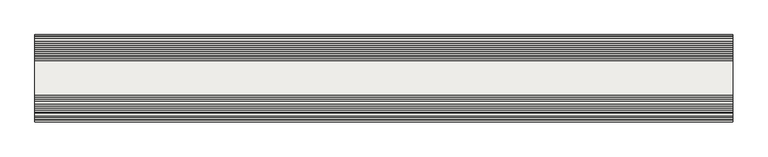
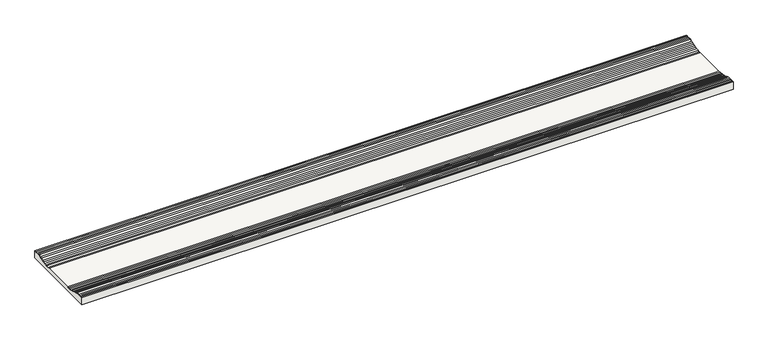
"""IFC4 building model written with IfcOpenShell, lengths in millimetres: slab geometry, ROSA GRES_204 : Pieza 204_Indugres_Indubeige_Tecno."""

from ifc_helpers import new_model, si_unit, point, frame, frame_2d, origin, place, context, project, spatial, polyline, circle_curve, trimmed, segment, composite_curve, outline, extrude, source, transform, mapped, element, save


def slab_7b5f9839(model_context):
    return source(origin(), model_context, "Body", "SweptSolid", [
        extrude(outline(composite_curve([segment(polyline([(0.0, 0.0), (-250.0, 0.0), (-250.0, 22.8672484), (-246.5165615, 22.8672484)]), True, "CONTINUOUS"), segment(trimmed(circle_curve(frame_2d((-246.5165615, 24.9459193)), 2.078671), [point((-246.5165615, 22.8672484))], [point((-244.6066559, 24.1254722))], True, "CARTESIAN"), True, "CONTINUOUS"), segment(trimmed(circle_curve(frame_2d((-241.5227559, 27.2443435)), 4.3860914), [point((-244.6066559, 24.1254722))], [point((-238.5231465, 24.0443215))], True, "CARTESIAN"), True, "CONTINUOUS"), segment(trimmed(circle_curve(frame_2d((-235.5165615, 27.2619892)), 4.4037415), [point((-238.5231465, 24.0443215))], [point((-232.5161808, 24.0385354))], True, "CARTESIAN"), True, "CONTINUOUS"), segment(trimmed(circle_curve(frame_2d((-229.5227559, 27.2443435)), 4.3860914), [point((-232.5161808, 24.0385354))], [point((-226.4518445, 24.1126825))], True, "CARTESIAN"), True, "CONTINUOUS"), segment(trimmed(circle_curve(frame_2d((-222.4126485, 25.8222711)), 4.3860914), [point((-226.4518445, 24.1126825))], [point((-220.9070916, 21.702672))], True, "CARTESIAN"), True, "CONTINUOUS"), segment(trimmed(circle_curve(frame_2d((-217.0089888, 23.7132919)), 4.3860914), [point((-220.9070916, 21.702672))], [point((-215.3259087, 19.6629784))], True, "CARTESIAN"), True, "CONTINUOUS"), segment(trimmed(circle_curve(frame_2d((-211.4655295, 21.7451095)), 4.3860914), [point((-215.3259087, 19.6629784))], [point((-209.593873, 17.7784107))], True, "CARTESIAN"), True, "CONTINUOUS"), segment(trimmed(circle_curve(frame_2d((-205.8934032, 20.1330489)), 4.3860914), [point((-209.593873, 17.7784107))], [point((-203.853023, 16.2504407))], True, "CARTESIAN"), True, "CONTINUOUS"), segment(trimmed(circle_curve(frame_2d((-200.2085503, 18.690854)), 4.3860914), [point((-203.853023, 16.2504407))], [point((-197.9613895, 14.9241491))], True, "CARTESIAN"), True, "CONTINUOUS"), segment(trimmed(circle_curve(frame_2d((-194.4503067, 17.5528551)), 4.3860914), [point((-197.9613895, 14.9241491))], [point((-192.1240285, 13.8344915))], True, "CARTESIAN"), True, "CONTINUOUS"), segment(trimmed(circle_curve(frame_2d((-188.6900903, 16.563203)), 4.3860914), [point((-192.1240285, 13.8344915))], [point((-186.1425933, 12.9927609))], True, "CARTESIAN"), True, "CONTINUOUS"), segment(trimmed(circle_curve(frame_2d((-182.8453461, 15.8851576)), 4.3860914), [point((-186.1425933, 12.9927609))], [point((-180.2419212, 12.3552884))], True, "CARTESIAN"), True, "CONTINUOUS"), segment(trimmed(circle_curve(frame_2d((-177.0588098, 15.372837)), 4.3860914), [point((-180.2419212, 12.3552884))], [point((-174.3413989, 11.9299493))], True, "CARTESIAN"), True, "CONTINUOUS"), segment(polyline([(-174.3413989, 11.9299493), (-75.6586011, 11.9299493)]), True, "CONTINUOUS"), segment(trimmed(circle_curve(frame_2d((-72.9411902, 15.372837)), 4.3860914), [point((-75.6586011, 11.9299493))], [point((-69.7580788, 12.3552884))], True, "CARTESIAN"), True, "CONTINUOUS"), segment(trimmed(circle_curve(frame_2d((-67.1546539, 15.8851576)), 4.3860914), [point((-69.7580788, 12.3552884))], [point((-63.8574067, 12.9927609))], True, "CARTESIAN"), True, "CONTINUOUS"), segment(trimmed(circle_curve(frame_2d((-61.3099097, 16.563203)), 4.3860914), [point((-63.8574067, 12.9927609))], [point((-57.8759715, 13.8344915))], True, "CARTESIAN"), True, "CONTINUOUS"), segment(trimmed(circle_curve(frame_2d((-55.5496933, 17.5528551)), 4.3860914), [point((-57.8759715, 13.8344915))], [point((-52.0386105, 14.9241491))], True, "CARTESIAN"), True, "CONTINUOUS"), segment(trimmed(circle_curve(frame_2d((-49.7914497, 18.690854)), 4.3860914), [point((-52.0386105, 14.9241491))], [point((-46.146977, 16.2504407))], True, "CARTESIAN"), True, "CONTINUOUS"), segment(trimmed(circle_curve(frame_2d((-44.1065968, 20.1330489)), 4.3860914), [point((-46.146977, 16.2504407))], [point((-40.406127, 17.7784107))], True, "CARTESIAN"), True, "CONTINUOUS"), segment(trimmed(circle_curve(frame_2d((-38.5344705, 21.7451095)), 4.3860914), [point((-40.406127, 17.7784107))], [point((-34.6740913, 19.6629784))], True, "CARTESIAN"), True, "CONTINUOUS"), segment(trimmed(circle_curve(frame_2d((-32.9910112, 23.7132919)), 4.3860914), [point((-34.6740913, 19.6629784))], [point((-29.0929084, 21.702672))], True, "CARTESIAN"), True, "CONTINUOUS"), segment(trimmed(circle_curve(frame_2d((-27.5873515, 25.8222711)), 4.3860914), [point((-29.0929084, 21.702672))], [point((-23.5481555, 24.1126825))], True, "CARTESIAN"), True, "CONTINUOUS"), segment(trimmed(circle_curve(frame_2d((-20.4772441, 27.2443435)), 4.3860914), [point((-23.5481555, 24.1126825))], [point((-17.4838192, 24.0385354))], True, "CARTESIAN"), True, "CONTINUOUS"), segment(trimmed(circle_curve(frame_2d((-14.4834385, 27.2619892)), 4.4037415), [point((-17.4838192, 24.0385354))], [point((-11.4768535, 24.0443215))], True, "CARTESIAN"), True, "CONTINUOUS"), segment(trimmed(circle_curve(frame_2d((-8.4772441, 27.2443435)), 4.3860914), [point((-11.4768535, 24.0443215))], [point((-5.3933441, 24.1254722))], True, "CARTESIAN"), True, "CONTINUOUS"), segment(trimmed(circle_curve(frame_2d((-3.4834385, 24.9459193)), 2.078671), [point((-5.3933441, 24.1254722))], [point((-3.4834385, 22.8672484))], True, "CARTESIAN"), True, "CONTINUOUS"), segment(polyline([(-3.4834385, 22.8672484), (0.0, 22.8672484), (0.0, 0.0)]), True, "CONTINUOUS")], self_intersect=False)), frame((0.0, 0.0, 0.0), z_axis=(1.0, 0.0, 0.0), x_axis=(0.0, 1.0, 0.0)), (0.0, 0.0, 1.0), 2000.0),
    ])


if __name__ == "__main__":
    model = new_model("IFC4")
    model_context = context("Model", 3, world=origin())
    ifc_project = project(units=[si_unit("LENGTHUNIT", "METRE", prefix="MILLI")], contexts=[model_context])
    site = spatial("IfcSite", under=ifc_project)
    building = spatial("IfcBuilding", under=site)
    placement = place(None, origin())
    slab_shape = slab_7b5f9839(model_context)
    element("IfcSlab", 1, ObjectType="ROSA GRES_204 : Pieza 204_Indugres_Indubeige_Tecno", at=placement, inside=building, context=model_context, shape_type="MappedRepresentation", body=[
        mapped(slab_shape, transform((0.0, 0.0, 0.0), x_axis=(1.0, 0.0, 0.0), y_axis=(0.0, 1.0, 0.0), z_axis=(0.0, 0.0, 1.0))),
    ])
    save(model, "model.ifc")
